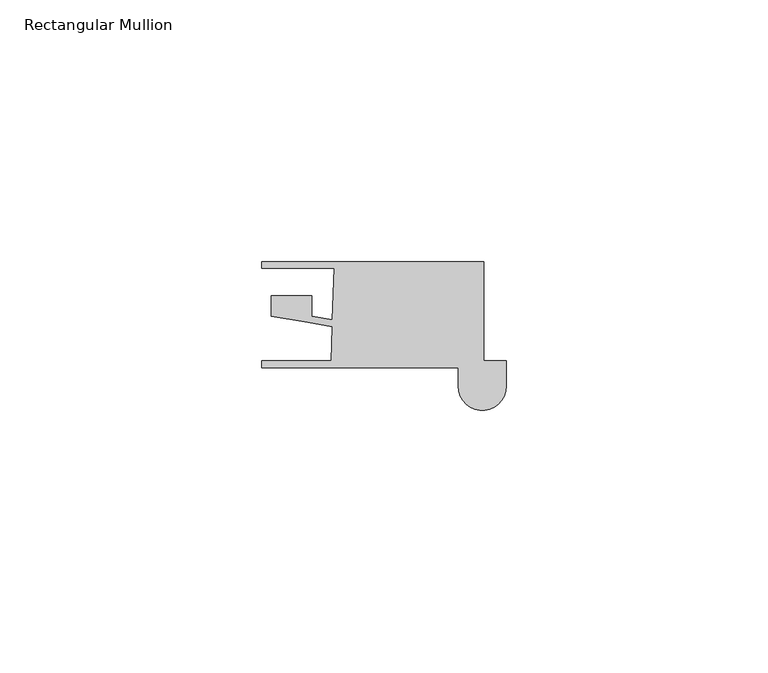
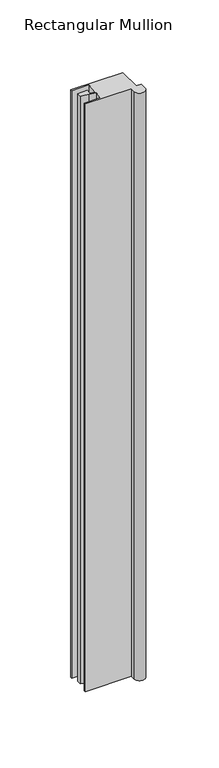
"""IFC4 building model written with IfcOpenShell, lengths in millimetres: member geometry, Rectangular Mullion : QuickPanel-Absolute_Multi-Angle-Outside-Corner-Trim-Right."""

from ifc_helpers import new_model, si_unit, point, frame, frame_2d, origin, place, context, project, spatial, polyline, circle_curve, trimmed, segment, composite_curve, outline, extrude, source, transform, mapped, element, save


def rectangular_mullion_2e643e02(model_context):
    return source(origin(), model_context, "Body", "SweptSolid", [
        extrude(outline(composite_curve([segment(polyline([(-46.7093657, -8.095605), (-46.7093657, -6.6935423), (-33.468453, -6.6935423), (-33.2416678, -0.1992641), (-38.4919487, 0.7008023), (-44.9272813, 1.8040245), (-44.9272813, 5.6493034), (-37.1825082, 5.6493034), (-37.1825082, 1.7648465), (-33.1969393, 1.0815922), (-32.8530122, 10.9303752), (-46.7093657, 10.9303752), (-46.7093657, 12.1803727), (-4.2600515, 12.1803727), (-4.2600515, -6.6995181), (0.0, -6.6995181), (0.0, -11.6334034)]), True, "CONTINUOUS"), segment(trimmed(circle_curve(frame_2d((-4.572, -11.6334034)), 4.572), [point((0.0, -11.6334034))], [point((-9.144, -11.6334034))], False, "CARTESIAN"), True, "CONTINUOUS"), segment(polyline([(-9.144, -11.6334034), (-9.144, -8.095605), (-46.7093657, -8.095605)]), True, "CONTINUOUS")], self_intersect=False)), frame((0.0, 0.0, -506.7037574), z_axis=(0.0, 0.0, 1.0), x_axis=(1.0, 0.0, 0.0)), (0.0, 0.0, 1.0), 506.7037574),
    ])


if __name__ == "__main__":
    model = new_model("IFC4")
    model_context = context("Model", 3, world=origin())
    ifc_project = project(units=[si_unit("LENGTHUNIT", "METRE", prefix="MILLI")], contexts=[model_context])
    site = spatial("IfcSite", under=ifc_project)
    building = spatial("IfcBuilding", under=site)
    placement = place(None, origin())
    rectangular_mullion_shape = rectangular_mullion_2e643e02(model_context)
    element("IfcMember", 1, ObjectType="Rectangular Mullion : QuickPanel-Absolute_Multi-Angle-Outside-Corner-Trim-Right", at=placement, inside=building, context=model_context, shape_type="MappedRepresentation", body=[
        mapped(rectangular_mullion_shape, transform((0.0, 0.0, 0.0), x_axis=(1.0, 0.0, 0.0), y_axis=(0.0, 1.0, 0.0), z_axis=(0.0, 0.0, 1.0))),
    ])
    save(model, "model.ifc")
